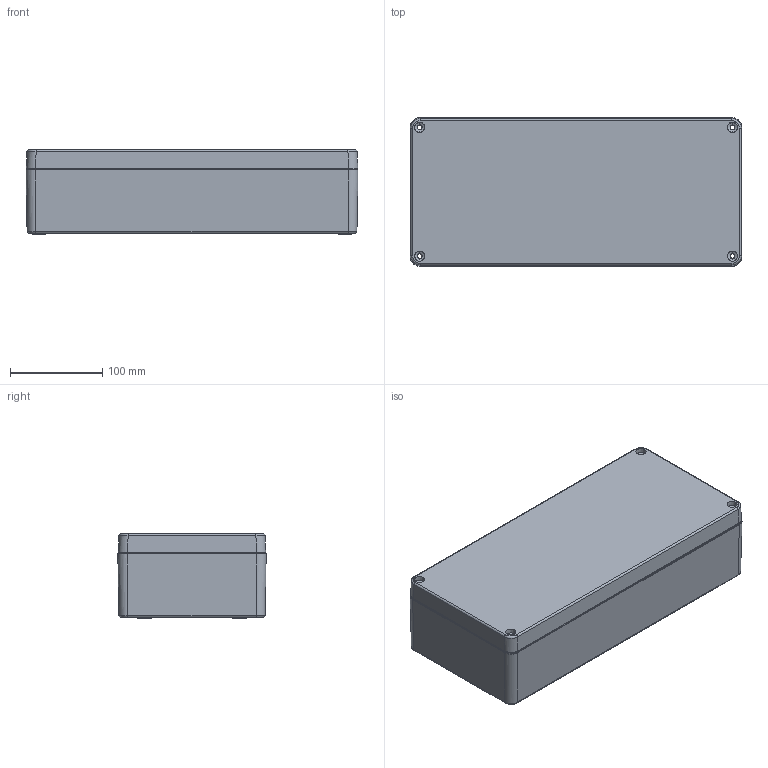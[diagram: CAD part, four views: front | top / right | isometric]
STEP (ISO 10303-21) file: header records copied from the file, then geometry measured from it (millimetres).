
FILE_DESCRIPTION (( 'STEP AP203' ), '1' );
FILE_NAME ('ALU ASSY 36016090.STEP', '2024-08-27T11:45:23', ( '' ), ( '' ), 'SwSTEP 2.0', 'SolidWorks 2018', '' );
FILE_SCHEMA (( 'CONFIG_CONTROL_DESIGN' ));
Length unit declared in the file: millimetre
Products named in the file (3): ALU ASSY 36016090; ALU BASE 36016090; ALU LID 36016090
Assembly tree (2 placements, depth 2):
  ALU ASSY 36016090
    ALU BASE 36016090
    ALU LID 36016090
Bounding box: 360.8 x 161.24 x 91.6 mm (x, y, z)
Volume: 1070477.7 mm3; surface area: 425123.5 mm2
Topology: 2 solids, 2 shells, 1689 faces, 4742 edges, 3140 vertices
Faces by surface type: plane 1064, bspline 378, cylinder 173, cone 74
Entity records: 69302 total; most frequent: CARTESIAN_POINT 28603, ORIENTED_EDGE 9442, DIRECTION 6553, EDGE_CURVE 4721, LINE 3237, VECTOR 3237, VERTEX_POINT 3140, EDGE_LOOP 1817
